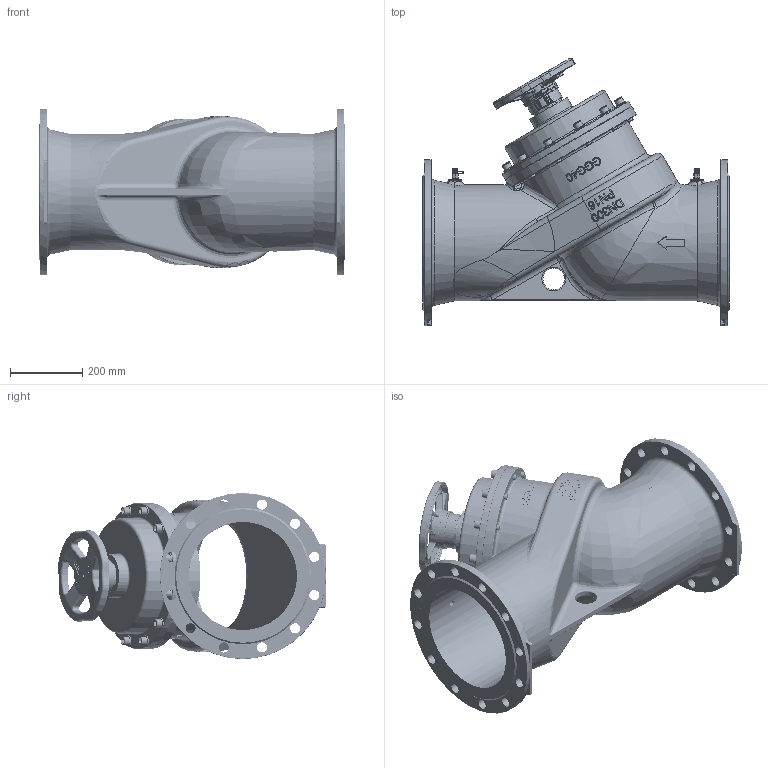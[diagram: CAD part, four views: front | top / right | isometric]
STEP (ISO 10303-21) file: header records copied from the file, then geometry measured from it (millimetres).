
FILE_DESCRIPTION(/* description */ ('STEP AP203'),/* implementation_level */ '2;1');
FILE_NAME(/* name */ 'RSV55 DN300.stp',/* time_stamp */ '2024-09-17T15:07:58+07:00',/* author */ ('Eva'),/* organization */ ('MicroSoft'),/* preprocessor_version */ 'ST-DEVELOPER v20',/* originating_system */ 'Autodesk Inventor 2025',/* authorisation */ '');
FILE_SCHEMA (('AUTOMOTIVE_DESIGN { 1 0 10303 214 3 1 1 }'));
Products named in the file (15): DN300平衡阀装配体; M0030DN300阀盖; M0030DN300阀体; M0030DN300阀轴压块; plain washers--product grade c gb_GB_FASTENER_WASHER_SMWC 16; hexagon socket head cap screws gb1_GB_FASTENER_SCREWS_HSHCS M16X55-N; TEST  NOZZLE; 修改HW260-00-双副本; HW260-01A; HW260-03; 修改HW260-02双副本-数字居中; HW260-06; 零件1; HW254-HXG32-08; HW254--05-去除圆角
Assembly tree (37 placements, depth 3):
  DN300平衡阀装配体
    M0030DN300阀盖
    M0030DN300阀体
    M0030DN300阀轴压块
    plain washers--product grade c gb_GB_FASTENER_WASHER_SMWC 16  x12
    hexagon socket head cap screws gb1_GB_FASTENER_SCREWS_HSHCS M16X55-N  x12
    TEST  NOZZLE  x2
    修改HW260-00-双副本
      HW260-01A
      HW260-03
      修改HW260-02双副本-数字居中
      HW260-06
      零件1
      HW254-HXG32-08
      HW254--05-去除圆角
Bounding box: 850 x 741.94 x 460 mm (x, y, z)
Volume: 22688252.8 mm3; surface area: 3567389.2 mm2
Topology: 51 solids, 51 shells, 6347 faces, 15788 edges, 9820 vertices
Faces by surface type: plane 2555, bspline 1439, cylinder 1424, torus 703, sphere 124, cone 102
Full cylindrical faces by diameter (mm): 4 x2, 5.991 x2, 6 x2, 7 x1, 7.1 x1, 7.6 x2, 7.8 x2, 7.933 x2, 8 x1, 9 x4, 10.625 x14, 10.907 x4, 12 x19, 14 x15, 15 x2, 16 x12, 17.5 x12, 18 x12, 24 x12, 28 x24, 30 x13, 37 x1, 39 x1, 45 x1, 50.6 x1, 58 x1, 58.2 x1, 60 x1, 61 x1, 64.2 x1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
Entity records: 371710 total; most frequent: CARTESIAN_POINT 239637, ORIENTED_EDGE 28884, DIRECTION 25005, EDGE_CURVE 14442, AXIS2_PLACEMENT_3D 9193, VERTEX_POINT 9082, LINE 6619, VECTOR 6619
